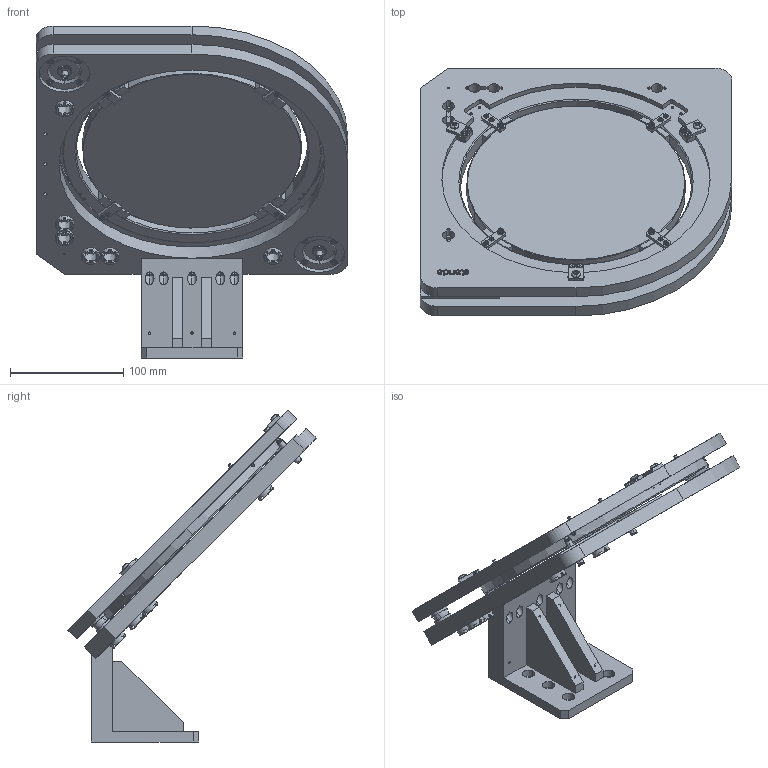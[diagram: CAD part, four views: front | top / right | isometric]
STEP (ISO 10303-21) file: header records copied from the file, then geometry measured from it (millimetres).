
FILE_DESCRIPTION((''),'2;1');
FILE_NAME('5LAM126-235-H-7.6-05G SB with 2AB126-45 SB.stp','2017-03-22T10:56:28',(''),(''),'Mechanical Desktop 2011','Mechanical Desktop 2011',', , ');
FILE_SCHEMA(('CONFIG_CONTROL_DESIGN'));
Length unit declared in the file: millimetre
Products named in the file (1): Product
Bounding box: 275 x 219.2 x 293.2 mm (x, y, z)
Volume: 1385676.8 mm3; surface area: 338990.6 mm2
Topology: 1 solids, 83 shells, 3259 faces, 8708 edges, 5682 vertices
Faces by surface type: plane 1387, bspline 746, cylinder 616, cone 398, torus 96, sphere 16
Entity records: 117169 total; most frequent: CARTESIAN_POINT 38882, ORIENTED_EDGE 17124, DIRECTION 15814, EDGE_CURVE 8562, AXIS2_PLACEMENT_3D 6038, VERTEX_POINT 5682, VECTOR 3738, LINE 3738
